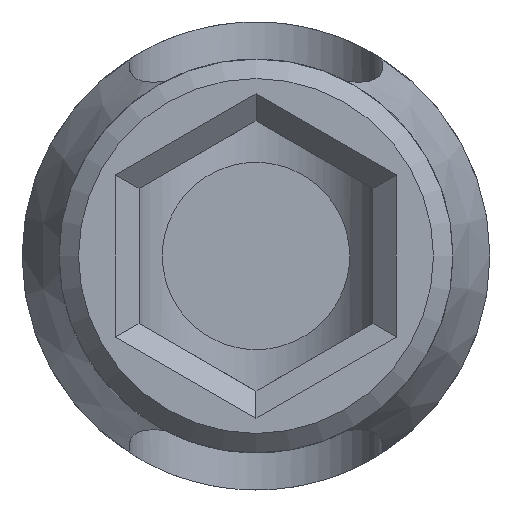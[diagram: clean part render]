
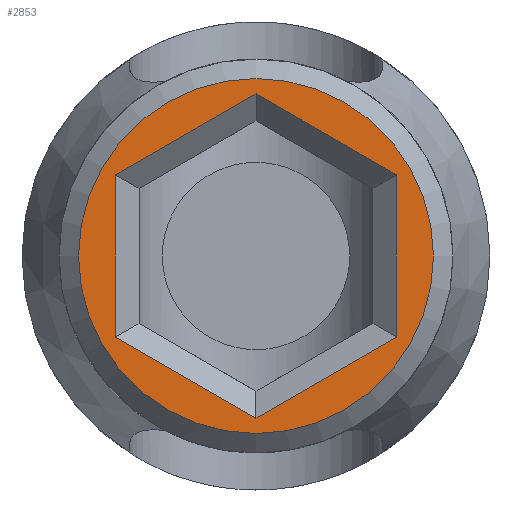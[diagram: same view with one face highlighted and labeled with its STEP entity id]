
A CAD part, front view. The second image highlights one B-rep face of the part: STEP entity #2853.
In plain terms, the highlighted planar face has unit normal (0, -1, 0).
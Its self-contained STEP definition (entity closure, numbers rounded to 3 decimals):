
#39=PLANE('',#3060);
#95=FACE_BOUND('',#357,.T.);
#191=FACE_OUTER_BOUND('',#356,.T.);
#356=EDGE_LOOP('',(#1946));
#357=EDGE_LOOP('',(#1947,#1948,#1949,#1950,#1951,#1952));
#553=LINE('',#4503,#761);
#556=LINE('',#4508,#764);
#558=LINE('',#4512,#766);
#560=LINE('',#4516,#768);
#562=LINE('',#4520,#770);
#564=LINE('',#4523,#772);
#761=VECTOR('',#3459,1000.);
#764=VECTOR('',#3464,1000.);
#766=VECTOR('',#3468,1000.);
#768=VECTOR('',#3472,1000.);
#770=VECTOR('',#3476,1000.);
#772=VECTOR('',#3480,1000.);
#955=CIRCLE('',#3034,4.55);
#1140=VERTEX_POINT('',#4451);
#1155=VERTEX_POINT('',#4501);
#1156=VERTEX_POINT('',#4502);
#1157=VERTEX_POINT('',#4507);
#1158=VERTEX_POINT('',#4511);
#1159=VERTEX_POINT('',#4515);
#1160=VERTEX_POINT('',#4519);
#1413=EDGE_CURVE('',#1140,#1140,#955,.T.);
#1435=EDGE_CURVE('',#1155,#1156,#553,.T.);
#1438=EDGE_CURVE('',#1157,#1155,#556,.T.);
#1440=EDGE_CURVE('',#1158,#1157,#558,.T.);
#1442=EDGE_CURVE('',#1159,#1158,#560,.T.);
#1444=EDGE_CURVE('',#1160,#1159,#562,.T.);
#1446=EDGE_CURVE('',#1156,#1160,#564,.T.);
#1946=ORIENTED_EDGE('',*,*,#1413,.F.);
#1947=ORIENTED_EDGE('',*,*,#1438,.T.);
#1948=ORIENTED_EDGE('',*,*,#1435,.T.);
#1949=ORIENTED_EDGE('',*,*,#1446,.T.);
#1950=ORIENTED_EDGE('',*,*,#1444,.T.);
#1951=ORIENTED_EDGE('',*,*,#1442,.T.);
#1952=ORIENTED_EDGE('',*,*,#1440,.T.);
#2853=ADVANCED_FACE('',(#191,#95),#39,.F.);
#3034=AXIS2_PLACEMENT_3D('',#4453,#3410,#3411);
#3060=AXIS2_PLACEMENT_3D('',#4548,#3505,#3506);
#3410=DIRECTION('center_axis',(0.,1.,0.));
#3411=DIRECTION('ref_axis',(0.,0.,1.));
#3459=DIRECTION('',(-0.866,0.,0.5));
#3464=DIRECTION('',(-0.866,0.,-0.5));
#3468=DIRECTION('',(0.,0.,-1.));
#3472=DIRECTION('',(0.866,0.,-0.5));
#3476=DIRECTION('',(0.866,0.,0.5));
#3480=DIRECTION('',(0.,0.,1.));
#3505=DIRECTION('center_axis',(0.,1.,0.));
#3506=DIRECTION('ref_axis',(0.,0.,1.));
#4451=CARTESIAN_POINT('',(0.,-31.2,-4.55));
#4453=CARTESIAN_POINT('Origin',(0.,-31.2,
0.));
#4501=CARTESIAN_POINT('',(0.,-31.2,-4.157));
#4502=CARTESIAN_POINT('',(-3.6,-31.2,-2.078));
#4503=CARTESIAN_POINT('',(0.,-31.2,-4.157));
#4507=CARTESIAN_POINT('',(3.6,-31.2,-2.078));
#4508=CARTESIAN_POINT('',(3.6,-31.2,-2.078));
#4511=CARTESIAN_POINT('',(3.6,-31.2,2.078));
#4512=CARTESIAN_POINT('',(3.6,-31.2,-1.732));
#4515=CARTESIAN_POINT('',(0.,-31.2,4.157));
#4516=CARTESIAN_POINT('',(0.,-31.2,4.157));
#4519=CARTESIAN_POINT('',(-3.6,-31.2,2.078));
#4520=CARTESIAN_POINT('',(-3.6,-31.2,2.078));
#4523=CARTESIAN_POINT('',(-3.6,-31.2,1.732));
#4548=CARTESIAN_POINT('Origin',(-5.05,-31.2,0.));
